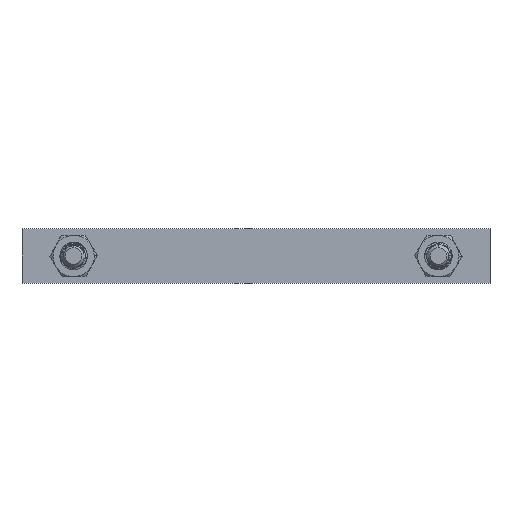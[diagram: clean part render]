
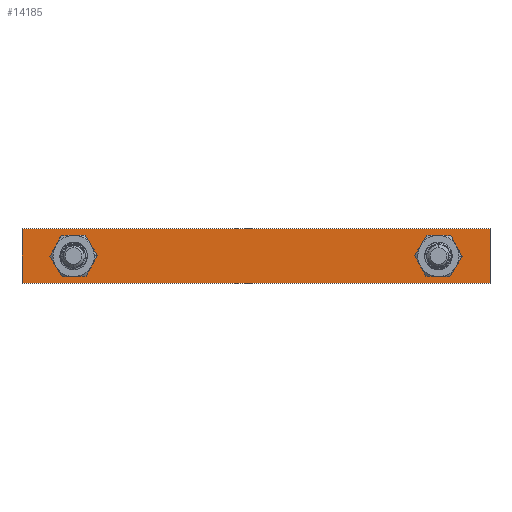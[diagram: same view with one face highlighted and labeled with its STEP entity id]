
A CAD part, front view. The second image highlights one B-rep face of the part: STEP entity #14185.
In plain terms, the highlighted planar face has unit normal (0, -1, 0).
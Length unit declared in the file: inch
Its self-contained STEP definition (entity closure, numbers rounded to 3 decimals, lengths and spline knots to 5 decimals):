
#251 = CIRCLE ( 'NONE', #3838, 0.3125 ) ;
#708 = VERTEX_POINT ( 'NONE', #15549 ) ;
#1571 = CARTESIAN_POINT ( 'NONE',  ( 0., 0.05, 0. ) ) ;
#2326 = ORIENTED_EDGE ( 'NONE', *, *, #16546, .T. ) ;
#2398 = FACE_BOUND ( 'NONE', #18505, .T. ) ;
#2447 = CARTESIAN_POINT ( 'NONE',  ( 8.5, 0.05, 0.49749 ) ) ;
#2490 = CARTESIAN_POINT ( 'NONE',  ( 7.5625, 0.05, -0.3125 ) ) ;
#2581 = DIRECTION ( 'NONE',  ( 0., 1., 0. ) ) ;
#2588 = CIRCLE ( 'NONE', #8915, 0.3125 ) ;
#2681 = ORIENTED_EDGE ( 'NONE', *, *, #10404, .T. ) ;
#2920 = AXIS2_PLACEMENT_3D ( 'NONE', #8711, #13402, #3491 ) ;
#3339 = CARTESIAN_POINT ( 'NONE',  ( 8.5, 0.05, -0.49749 ) ) ;
#3425 = ORIENTED_EDGE ( 'NONE', *, *, #12988, .F. ) ;
#3475 = EDGE_LOOP ( 'NONE', ( #15441, #17384, #8076, #3425 ) ) ;
#3491 = DIRECTION ( 'NONE',  ( 0., 0., 1. ) ) ;
#3692 = ORIENTED_EDGE ( 'NONE', *, *, #9724, .T. ) ;
#3767 = DIRECTION ( 'NONE',  ( 0., 0., 1. ) ) ;
#3838 = AXIS2_PLACEMENT_3D ( 'NONE', #11387, #12798, #17119 ) ;
#5047 = EDGE_LOOP ( 'NONE', ( #2681, #17447 ) ) ;
#6208 = VECTOR ( 'NONE', #11517, 39.37008 ) ;
#6240 = VERTEX_POINT ( 'NONE', #16325 ) ;
#6305 = DIRECTION ( 'NONE',  ( 0., 1., 0. ) ) ;
#6725 = DIRECTION ( 'NONE',  ( 0., 0., -1. ) ) ;
#6865 = DIRECTION ( 'NONE',  ( 0., 0., -1. ) ) ;
#6870 = AXIS2_PLACEMENT_3D ( 'NONE', #13525, #18237, #11069 ) ;
#6896 = CARTESIAN_POINT ( 'NONE',  ( 8.5, 0.05, 0.49749 ) ) ;
#7068 = LINE ( 'NONE', #9992, #17371 ) ;
#7153 = CIRCLE ( 'NONE', #2920, 0.3125 ) ;
#7274 = LINE ( 'NONE', #6896, #6208 ) ;
#7317 = DIRECTION ( 'NONE',  ( 0., 0., -1. ) ) ;
#7610 = VERTEX_POINT ( 'NONE', #3339 ) ;
#7658 = LINE ( 'NONE', #13403, #15295 ) ;
#7725 = CIRCLE ( 'NONE', #13751, 0.3125 ) ;
#8076 = ORIENTED_EDGE ( 'NONE', *, *, #16923, .T. ) ;
#8140 = FACE_OUTER_BOUND ( 'NONE', #3475, .T. ) ;
#8571 = DIRECTION ( 'NONE',  ( 1., 0., 0. ) ) ;
#8711 = CARTESIAN_POINT ( 'NONE',  ( 7.5625, 0.05, 0. ) ) ;
#8915 = AXIS2_PLACEMENT_3D ( 'NONE', #18200, #6305, #3767 ) ;
#8963 = VECTOR ( 'NONE', #7317, 39.37008 ) ;
#9164 = VERTEX_POINT ( 'NONE', #12561 ) ;
#9645 = VERTEX_POINT ( 'NONE', #2490 ) ;
#9724 = EDGE_CURVE ( 'Edge7', #9645, #18511, #2588, .T. ) ;
#9879 = VERTEX_POINT ( 'NONE', #2447 ) ;
#9992 = CARTESIAN_POINT ( 'NONE',  ( 8.5, 0.05, -0.49749 ) ) ;
#10303 = CARTESIAN_POINT ( 'NONE',  ( 7.5625, 0.05, 0.3125 ) ) ;
#10404 = EDGE_CURVE ( 'Edge12', #6240, #15981, #7725, .T. ) ;
#10959 = EDGE_CURVE ( 'NONE', #9879, #708, #7274, .T. ) ;
#11069 = DIRECTION ( 'NONE',  ( 0., 0., -1. ) ) ;
#11387 = CARTESIAN_POINT ( 'NONE',  ( 0.9375, 0.05, 0. ) ) ;
#11517 = DIRECTION ( 'NONE',  ( -1., 0., 0. ) ) ;
#12561 = CARTESIAN_POINT ( 'NONE',  ( 0., 0.05, -0.49749 ) ) ;
#12798 = DIRECTION ( 'NONE',  ( 0., 1., 0. ) ) ;
#12988 = EDGE_CURVE ( 'Edge10', #9879, #7610, #7658, .T. ) ;
#13402 = DIRECTION ( 'NONE',  ( 0., 1., 0. ) ) ;
#13403 = CARTESIAN_POINT ( 'NONE',  ( 8.5, 0.05, 0.875 ) ) ;
#13525 = CARTESIAN_POINT ( 'NONE',  ( 0., 0.05, 0. ) ) ;
#13751 = AXIS2_PLACEMENT_3D ( 'NONE', #14096, #2581, #6725 ) ;
#13899 = EDGE_CURVE ( 'Edge6', #708, #9164, #16262, .T. ) ;
#13901 = PLANE ( 'NONE',  #6870 ) ;
#14096 = CARTESIAN_POINT ( 'NONE',  ( 0.9375, 0.05, 0. ) ) ;
#14185 = ADVANCED_FACE ( 'Face6', ( #2398, #8140, #15222 ), #13901, .T. ) ;
#14603 = CARTESIAN_POINT ( 'NONE',  ( 0.9375, 0.05, 0.3125 ) ) ;
#15222 = FACE_BOUND ( 'NONE', #5047, .T. ) ;
#15295 = VECTOR ( 'NONE', #6865, 39.37008 ) ;
#15441 = ORIENTED_EDGE ( 'NONE', *, *, #10959, .T. ) ;
#15549 = CARTESIAN_POINT ( 'NONE',  ( 0., 0.05, 0.49749 ) ) ;
#15981 = VERTEX_POINT ( 'NONE', #14603 ) ;
#16262 = LINE ( 'NONE', #1571, #8963 ) ;
#16325 = CARTESIAN_POINT ( 'NONE',  ( 0.9375, 0.05, -0.3125 ) ) ;
#16546 = EDGE_CURVE ( 'Edge7', #18511, #9645, #7153, .T. ) ;
#16923 = EDGE_CURVE ( 'Edge13', #9164, #7610, #7068, .T. ) ;
#17119 = DIRECTION ( 'NONE',  ( 0., 0., -1. ) ) ;
#17368 = EDGE_CURVE ( 'Edge12', #15981, #6240, #251, .T. ) ;
#17371 = VECTOR ( 'NONE', #8571, 39.37008 ) ;
#17384 = ORIENTED_EDGE ( 'NONE', *, *, #13899, .T. ) ;
#17447 = ORIENTED_EDGE ( 'NONE', *, *, #17368, .T. ) ;
#18200 = CARTESIAN_POINT ( 'NONE',  ( 7.5625, 0.05, 0. ) ) ;
#18237 = DIRECTION ( 'NONE',  ( 0., -1., 0. ) ) ;
#18505 = EDGE_LOOP ( 'NONE', ( #3692, #2326 ) ) ;
#18511 = VERTEX_POINT ( 'NONE', #10303 ) ;
